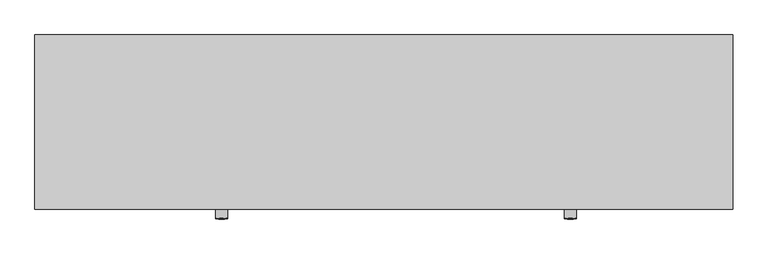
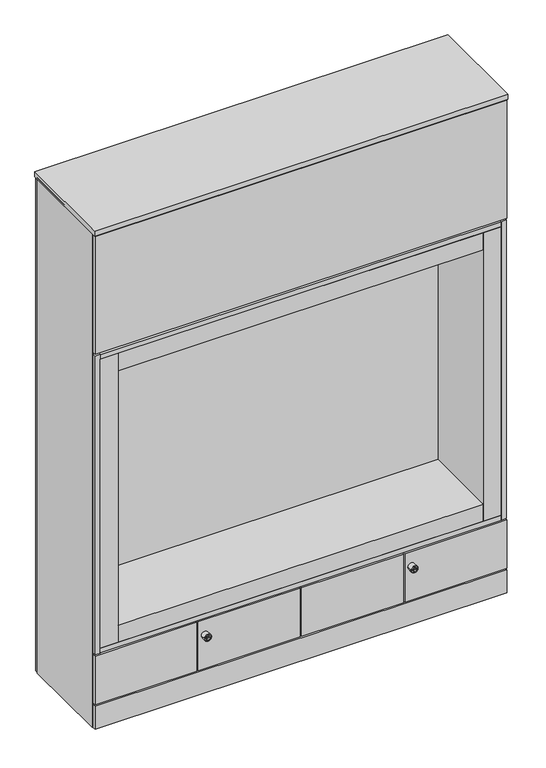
"""IFC4 building model written with IfcOpenShell, lengths in millimetres: furniture geometry, Furniture_Storage_Spacestor_SignatureStoragewall : Snugglestor Double."""

from ifc_helpers import new_model, si_unit, point, frame, origin, origin_with_axes, place, context, project, spatial, polyline, circle_curve, ellipse_curve, trimmed, outline, extrude, source, transform, mapped, element, save
from ifc_brep_helpers import plane_surface, cylinder_surface, revolved_surface, advanced_brep


def furniture_052f12db(model_context):
    return source(origin(), model_context, "Body", "SolidModel", [
        extrude(outline(polyline([(1996.5, 459.0), (3.5, 459.0), (3.5, 477.0), (1996.5, 477.0), (1996.5, 459.0)])), origin_with_axes(), (0.0, 0.0, 1.0), 2518.0),
        extrude(outline(polyline([(1996.5, -18.0), (3.5, -18.0), (3.5, 0.0), (1996.5, 0.0), (1996.5, -18.0)])), origin_with_axes(), (0.0, 0.0, 1.0), 118.0),
        extrude(outline(polyline([(2000.0, -20.5), (0.0, -20.5), (0.0, 479.5), (2000.0, 479.5), (2000.0, -20.5)])), frame((0.0, 0.0, 2525.0), z_axis=(0.0, 0.0, 1.0), x_axis=(1.0, 0.0, 0.0)), (0.0, 0.0, 1.0), 25.5),
        extrude(outline(polyline([(2000.0, 0.0), (1989.0, 0.0), (1989.0, 459.0), (2000.0, 459.0), (2000.0, 0.0)])), origin_with_axes(), (0.0, 0.0, 1.0), 2532.5),
        extrude(outline(polyline([(11.0, 0.0), (0.0, 0.0), (0.0, 459.0), (11.0, 459.0), (11.0, 0.0)])), origin_with_axes(), (0.0, 0.0, 1.0), 2532.5),
        extrude(outline(polyline([(1996.5, -18.0), (3.5, -18.0), (3.5, 0.0), (1996.5, 0.0), (1996.5, -18.0)])), frame((0.0, 0.0, 1917.0), z_axis=(0.0, 0.0, 1.0), x_axis=(1.0, 0.0, 0.0)), (0.0, 0.0, 1.0), 601.0),
        extrude(outline(polyline([(1989.0, 0.0), (11.0, 0.0), (11.0, 459.0), (1989.0, 459.0), (1989.0, 0.0)])), frame((0.0, 0.0, 1902.5), z_axis=(0.0, 0.0, 1.0), x_axis=(1.0, 0.0, 0.0)), (0.0, 0.0, 1.0), 22.0),
        extrude(outline(polyline([(1970.5, 398.0), (1970.5, 361.0), (29.5, 361.0), (29.5, 398.0), (1970.5, 398.0)])), frame((0.0, 0.0, 406.5), z_axis=(0.0, 0.0, 1.0), x_axis=(1.0, 0.0, 0.0)), (0.0, 0.0, 1.0), 1476.0),
        extrude(outline(polyline([(1970.5, -18.0), (1883.5, -18.0), (1883.5, 361.0), (1970.5, 361.0), (1970.5, -18.0)])), frame((0.0, 0.0, 406.5), z_axis=(0.0, 0.0, 1.0), x_axis=(1.0, 0.0, 0.0)), (0.0, 0.0, 1.0), 1476.0),
        extrude(outline(polyline([(116.5, -18.0), (29.5, -18.0), (29.5, 361.0), (116.5, 361.0), (116.5, -18.0)])), frame((0.0, 0.0, 406.5), z_axis=(0.0, 0.0, 1.0), x_axis=(1.0, 0.0, 0.0)), (0.0, 0.0, 1.0), 1476.0),
        extrude(outline(polyline([(1883.5, -18.0), (116.5, -18.0), (116.5, 361.0), (1883.5, 361.0), (1883.5, -18.0)])), frame((0.0, 0.0, 406.5), z_axis=(0.0, 0.0, 1.0), x_axis=(1.0, 0.0, 0.0)), (0.0, 0.0, 1.0), 87.0),
        extrude(outline(polyline([(1883.5, -18.0), (116.5, -18.0), (116.5, 361.0), (1883.5, 361.0), (1883.5, -18.0)])), frame((0.0, 0.0, 1795.5), z_axis=(0.0, 0.0, 1.0), x_axis=(1.0, 0.0, 0.0)), (0.0, 0.0, 1.0), 87.0),
        extrude(outline(polyline([(1003.5, -18.0), (1003.5, 0.0), (1496.5, 0.0), (1496.5, -18.0), (1003.5, -18.0)])), frame((0.0, 0.0, 125.0), z_axis=(0.0, 0.0, 1.0), x_axis=(1.0, 0.0, 0.0)), (0.0, 0.0, 1.0), 249.0),
        extrude(outline(polyline([(1996.5, -18.0), (1503.5, -18.0), (1503.5, 0.0), (1996.5, 0.0), (1996.5, -18.0)])), frame((0.0, 0.0, 125.0), z_axis=(0.0, 0.0, 1.0), x_axis=(1.0, 0.0, 0.0)), (0.0, 0.0, 1.0), 249.0),
        advanced_brep(
        [(1552.0, -45.3116344, 299.0), (1518.0, -45.3116344, 299.0), (1518.0, -18.0, 299.0), (1552.0, -18.0, 299.0), (1535.0, -18.0, 299.0), (1543.9747319, -46.3150077, 299.0), (1526.0252681, -46.3150077, 299.0), (1519.0033734, -46.3150077, 299.0), (1550.9966266, -46.3150077, 299.0), (1543.9747319, -47.4703043, 299.0), (1526.0252681, -47.4703043, 299.0), (1539.8245152, -47.4703043, 299.0), (1539.8245152, -47.4703043, 297.6366562), (1530.1754848, -47.4703043, 297.6366562), (1530.1754848, -47.4703043, 299.0), (1530.1754848, -47.4703043, 300.3633438), (1539.8245152, -47.4703043, 300.3633438), (1530.1754848, -27.8604291, 297.6366562), (1539.8245152, -27.8604291, 297.6366562), (1539.8245152, -27.8604291, 300.3633438), (1530.1754848, -27.8604291, 300.3633438)],
        [
            (0, 1, circle_curve(frame((1535.0, -45.3116344, 299.0), z_axis=(0.0, 1.0, 0.0), x_axis=(-1.0, 0.0, 0.0)), 17.0)),
            (1, 2),
            (2, 3, circle_curve(frame((1535.0, -18.0, 299.0), z_axis=(0.0, -1.0, 0.0), x_axis=(-1.0, 0.0, 0.0)), 17.0)),
            (3, 0),
            (1, 0, circle_curve(frame((1535.0, -45.3116344, 299.0), z_axis=(0.0, 1.0, 0.0), x_axis=(-1.0, 0.0, 0.0)), 17.0)),
            (3, 2, circle_curve(frame((1535.0, -18.0, 299.0), z_axis=(0.0, -1.0, 0.0), x_axis=(-1.0, 0.0, 0.0)), 17.0)),
            (2, 4),
            (4, 3),
            (5, 6, circle_curve(frame((1535.0, -46.3150077, 299.0), z_axis=(0.0, 1.0, 0.0), x_axis=(-1.0, 0.0, 0.0)), 8.9747319)),
            (6, 7),
            (7, 8, circle_curve(frame((1535.0, -46.3150077, 299.0), z_axis=(0.0, -1.0, 0.0), x_axis=(-1.0, 0.0, 0.0)), 15.9966266)),
            (8, 5),
            (6, 5, circle_curve(frame((1535.0, -46.3150077, 299.0), z_axis=(0.0, 1.0, 0.0), x_axis=(-1.0, 0.0, 0.0)), 8.9747319)),
            (8, 7, circle_curve(frame((1535.0, -46.3150077, 299.0), z_axis=(0.0, -1.0, 0.0), x_axis=(-1.0, 0.0, 0.0)), 15.9966266)),
            (0, 8, circle_curve(frame((1550.9966266, -45.3116344, 299.0), z_axis=(0.0, 0.0, -1.0), x_axis=(1.0, 0.0, 0.0)), 1.0033734)),
            (7, 1, circle_curve(frame((1519.0033734, -45.3116344, 299.0), z_axis=(0.0, 0.0, -1.0), x_axis=(-1.0, 0.0, 0.0)), 1.0033734)),
            (5, 9),
            (9, 10, circle_curve(frame((1535.0, -47.4703043, 299.0), z_axis=(0.0, 1.0, 0.0), x_axis=(-1.0, 0.0, 0.0)), 8.9747319)),
            (10, 6),
            (10, 9, circle_curve(frame((1535.0, -47.4703043, 299.0), z_axis=(0.0, 1.0, 0.0), x_axis=(-1.0, 0.0, 0.0)), 8.9747319)),
            (9, 11),
            (11, 12),
            (12, 13),
            (13, 14),
            (14, 10),
            (14, 15),
            (15, 16),
            (16, 11),
            (17, 18),
            (18, 19),
            (19, 20),
            (20, 17),
            (17, 13),
            (12, 18),
            (16, 19),
            (15, 20),
        ],
        [
            cylinder_surface(frame((1535.0, -2627.0581012, 299.0), z_axis=(0.0, -1.0, 0.0), x_axis=(-1.0, 0.0, 0.0)), 17.0),
            plane_surface(frame((1535.0, -18.0, 299.0), z_axis=(0.0, 1.0, 0.0), x_axis=(-1.0, 0.0, 0.0))),
            plane_surface(frame((1535.0, -46.3150077, 299.0), z_axis=(0.0, -1.0, 0.0), x_axis=(-1.0, 0.0, 0.0))),
            revolved_surface(trimmed(ellipse_curve(frame((1519.0033734, -45.3116344, 299.0), z_axis=(0.0, 0.0, 1.0), x_axis=(-1.0, 0.0, 0.0)), 1.0033734, 1.0033734), [point((1518.0, -45.3116344, 299.0))], [point((1519.0033734, -46.3150077, 299.0))], True, "CARTESIAN"), (1535.0, -2627.0581012, 299.0), (0.0, -1.0, 0.0)),
            cylinder_surface(frame((1535.0, -2627.0581012, 299.0), z_axis=(0.0, -1.0, 0.0), x_axis=(-1.0, 0.0, 0.0)), 8.9747319),
            plane_surface(frame((1535.0, -47.4703043, 299.0), z_axis=(0.0, -1.0, 0.0), x_axis=(-1.0, 0.0, 0.0))),
            plane_surface(frame((1539.4565249, -27.8604291, 297.6366562), z_axis=(0.0, -1.0, 0.0), x_axis=(-1.0, 0.0, 0.0))),
            plane_surface(frame((1530.1754848, -49.2046383, 297.6366562), z_axis=(0.0, 0.0, 1.0), x_axis=(0.0, 1.0, 0.0))),
            plane_surface(frame((1539.8245152, -49.2046383, 297.6366562), z_axis=(-1.0, 0.0, 0.0), x_axis=(0.0, 1.0, 0.0))),
            plane_surface(frame((1539.8245152, -49.2046383, 300.3633438), z_axis=(0.0, 0.0, -1.0), x_axis=(0.0, 1.0, 0.0))),
            plane_surface(frame((1530.1754848, -49.2046383, 300.3633438), z_axis=(1.0, 0.0, 0.0), x_axis=(0.0, 1.0, 0.0))),
        ],
        [
            (0, [[1, 2, 3, 4]]),
            (0, [[-2, 5, -4, 6]]),
            (1, [[-3, 7, 8]]),
            (1, [[-6, -8, -7]]),
            (2, [[9, 10, 11, 12]]),
            (2, [[-10, 13, -12, 14]]),
            (3, [[-1, 15, -11, 16]]),
            (3, [[-5, -16, -14, -15]]),
            (4, [[-9, 17, 18, 19]]),
            (4, [[-13, -19, 20, -17]]),
            (5, [[-18, 21, 22, 23, 24, 25]]),
            (5, [[-20, -25, 26, 27, 28, -21]]),
            (6, [[29, 30, 31, 32]]),
            (7, [[-29, 33, -23, 34]]),
            (8, [[-30, -34, -22, -28, 35]]),
            (9, [[-31, -35, -27, 36]]),
            (10, [[-32, -36, -26, -24, -33]]),
        ],
    ),
        extrude(outline(polyline([(1989.0, 0.0), (11.0, 0.0), (11.0, 459.0), (1989.0, 459.0), (1989.0, 0.0)])), frame((0.0, 0.0, 110.5), z_axis=(0.0, 0.0, 1.0), x_axis=(1.0, 0.0, 0.0)), (0.0, 0.0, 1.0), 22.0),
        extrude(outline(polyline([(1989.0, 0.0), (11.0, 0.0), (11.0, 459.0), (1989.0, 459.0), (1989.0, 0.0)])), frame((0.0, 0.0, 2510.0), z_axis=(0.0, 0.0, 1.0), x_axis=(1.0, 0.0, 0.0)), (0.0, 0.0, 1.0), 22.0),
        extrude(outline(polyline([(1989.0, 0.0), (11.0, 0.0), (11.0, 459.0), (1989.0, 459.0), (1989.0, 0.0)])), frame((0.0, 0.0, 366.5), z_axis=(0.0, 0.0, 1.0), x_axis=(1.0, 0.0, 0.0)), (0.0, 0.0, 1.0), 22.0),
        extrude(outline(polyline([(1970.5, -18.0), (29.5, -18.0), (29.5, 416.0), (1970.5, 416.0), (1970.5, -18.0)])), frame((0.0, 0.0, 381.5), z_axis=(0.0, 0.0, 1.0), x_axis=(1.0, 0.0, 0.0)), (0.0, 0.0, 1.0), 25.0),
        extrude(outline(polyline([(29.5, -18.0), (4.5, -18.0), (4.5, 416.0), (29.5, 416.0), (29.5, -18.0)])), frame((0.0, 0.0, 381.0), z_axis=(0.0, 0.0, 1.0), x_axis=(1.0, 0.0, 0.0)), (0.0, 0.0, 1.0), 1527.0),
        extrude(outline(polyline([(1995.5, -18.0), (1970.5, -18.0), (1970.5, 416.0), (1995.5, 416.0), (1995.5, -18.0)])), frame((0.0, 0.0, 381.0), z_axis=(0.0, 0.0, 1.0), x_axis=(1.0, 0.0, 0.0)), (0.0, 0.0, 1.0), 1527.0),
        extrude(outline(polyline([(1995.5, 416.0), (4.5, 416.0), (4.5, 434.0), (1995.5, 434.0), (1995.5, 416.0)])), frame((0.0, 0.0, 381.0), z_axis=(0.0, 0.0, 1.0), x_axis=(1.0, 0.0, 0.0)), (0.0, 0.0, 1.0), 1527.0),
        extrude(outline(polyline([(1970.5, -18.0), (29.5, -18.0), (29.5, 416.0), (1970.5, 416.0), (1970.5, -18.0)])), frame((0.0, 0.0, 1882.5), z_axis=(0.0, 0.0, 1.0), x_axis=(1.0, 0.0, 0.0)), (0.0, 0.0, 1.0), 25.0),
        extrude(outline(polyline([(3.5, -18.0), (3.5, 0.0), (496.5, 0.0), (496.5, -18.0), (3.5, -18.0)])), frame((0.0, 0.0, 125.0), z_axis=(0.0, 0.0, 1.0), x_axis=(1.0, 0.0, 0.0)), (0.0, 0.0, 1.0), 249.0),
        extrude(outline(polyline([(996.5, -18.0), (503.5, -18.0), (503.5, 0.0), (996.5, 0.0), (996.5, -18.0)])), frame((0.0, 0.0, 125.0), z_axis=(0.0, 0.0, 1.0), x_axis=(1.0, 0.0, 0.0)), (0.0, 0.0, 1.0), 249.0),
        advanced_brep(
        [(552.0, -45.3116344, 299.0), (518.0, -45.3116344, 299.0), (518.0, -18.0, 299.0), (552.0, -18.0, 299.0), (535.0, -18.0, 299.0), (543.9747319, -46.3150077, 299.0), (526.0252681, -46.3150077, 299.0), (519.0033734, -46.3150077, 299.0), (550.9966266, -46.3150077, 299.0), (543.9747319, -47.4703043, 299.0), (526.0252681, -47.4703043, 299.0), (539.8245152, -47.4703043, 299.0), (539.8245152, -47.4703043, 297.6366562), (530.1754848, -47.4703043, 297.6366562), (530.1754848, -47.4703043, 299.0), (530.1754848, -47.4703043, 300.3633438), (539.8245152, -47.4703043, 300.3633438), (530.1754848, -27.8604291, 297.6366562), (539.8245152, -27.8604291, 297.6366562), (539.8245152, -27.8604291, 300.3633438), (530.1754848, -27.8604291, 300.3633438)],
        [
            (0, 1, circle_curve(frame((535.0, -45.3116344, 299.0), z_axis=(0.0, 1.0, 0.0), x_axis=(-1.0, 0.0, 0.0)), 17.0)),
            (1, 2),
            (2, 3, circle_curve(frame((535.0, -18.0, 299.0), z_axis=(0.0, -1.0, 0.0), x_axis=(-1.0, 0.0, 0.0)), 17.0)),
            (3, 0),
            (1, 0, circle_curve(frame((535.0, -45.3116344, 299.0), z_axis=(0.0, 1.0, 0.0), x_axis=(-1.0, 0.0, 0.0)), 17.0)),
            (3, 2, circle_curve(frame((535.0, -18.0, 299.0), z_axis=(0.0, -1.0, 0.0), x_axis=(-1.0, 0.0, 0.0)), 17.0)),
            (2, 4),
            (4, 3),
            (5, 6, circle_curve(frame((535.0, -46.3150077, 299.0), z_axis=(0.0, 1.0, 0.0), x_axis=(-1.0, 0.0, 0.0)), 8.9747319)),
            (6, 7),
            (7, 8, circle_curve(frame((535.0, -46.3150077, 299.0), z_axis=(0.0, -1.0, 0.0), x_axis=(-1.0, 0.0, 0.0)), 15.9966266)),
            (8, 5),
            (6, 5, circle_curve(frame((535.0, -46.3150077, 299.0), z_axis=(0.0, 1.0, 0.0), x_axis=(-1.0, 0.0, 0.0)), 8.9747319)),
            (8, 7, circle_curve(frame((535.0, -46.3150077, 299.0), z_axis=(0.0, -1.0, 0.0), x_axis=(-1.0, 0.0, 0.0)), 15.9966266)),
            (0, 8, circle_curve(frame((550.9966266, -45.3116344, 299.0), z_axis=(0.0, 0.0, -1.0), x_axis=(1.0, 0.0, 0.0)), 1.0033734)),
            (7, 1, circle_curve(frame((519.0033734, -45.3116344, 299.0), z_axis=(0.0, 0.0, -1.0), x_axis=(-1.0, 0.0, 0.0)), 1.0033734)),
            (5, 9),
            (9, 10, circle_curve(frame((535.0, -47.4703043, 299.0), z_axis=(0.0, 1.0, 0.0), x_axis=(-1.0, 0.0, 0.0)), 8.9747319)),
            (10, 6),
            (10, 9, circle_curve(frame((535.0, -47.4703043, 299.0), z_axis=(0.0, 1.0, 0.0), x_axis=(-1.0, 0.0, 0.0)), 8.9747319)),
            (9, 11),
            (11, 12),
            (12, 13),
            (13, 14),
            (14, 10),
            (14, 15),
            (15, 16),
            (16, 11),
            (17, 18),
            (18, 19),
            (19, 20),
            (20, 17),
            (17, 13),
            (12, 18),
            (16, 19),
            (15, 20),
        ],
        [
            cylinder_surface(frame((535.0, -2627.0581012, 299.0), z_axis=(0.0, -1.0, 0.0), x_axis=(-1.0, 0.0, 0.0)), 17.0),
            plane_surface(frame((535.0, -18.0, 299.0), z_axis=(0.0, 1.0, 0.0), x_axis=(-1.0, 0.0, 0.0))),
            plane_surface(frame((535.0, -46.3150077, 299.0), z_axis=(0.0, -1.0, 0.0), x_axis=(-1.0, 0.0, 0.0))),
            revolved_surface(trimmed(ellipse_curve(frame((519.0033734, -45.3116344, 299.0), z_axis=(0.0, 0.0, 1.0), x_axis=(-1.0, 0.0, 0.0)), 1.0033734, 1.0033734), [point((518.0, -45.3116344, 299.0))], [point((519.0033734, -46.3150077, 299.0))], True, "CARTESIAN"), (535.0, -2627.0581012, 299.0), (0.0, -1.0, 0.0)),
            cylinder_surface(frame((535.0, -2627.0581012, 299.0), z_axis=(0.0, -1.0, 0.0), x_axis=(-1.0, 0.0, 0.0)), 8.9747319),
            plane_surface(frame((535.0, -47.4703043, 299.0), z_axis=(0.0, -1.0, 0.0), x_axis=(-1.0, 0.0, 0.0))),
            plane_surface(frame((539.4565249, -27.8604291, 297.6366562), z_axis=(0.0, -1.0, 0.0), x_axis=(-1.0, 0.0, 0.0))),
            plane_surface(frame((530.1754848, -49.2046383, 297.6366562), z_axis=(0.0, 0.0, 1.0), x_axis=(0.0, 1.0, 0.0))),
            plane_surface(frame((539.8245152, -49.2046383, 297.6366562), z_axis=(-1.0, 0.0, 0.0), x_axis=(0.0, 1.0, 0.0))),
            plane_surface(frame((539.8245152, -49.2046383, 300.3633438), z_axis=(0.0, 0.0, -1.0), x_axis=(0.0, 1.0, 0.0))),
            plane_surface(frame((530.1754848, -49.2046383, 300.3633438), z_axis=(1.0, 0.0, 0.0), x_axis=(0.0, 1.0, 0.0))),
        ],
        [
            (0, [[1, 2, 3, 4]]),
            (0, [[-2, 5, -4, 6]]),
            (1, [[-3, 7, 8]]),
            (1, [[-6, -8, -7]]),
            (2, [[9, 10, 11, 12]]),
            (2, [[-10, 13, -12, 14]]),
            (3, [[-1, 15, -11, 16]]),
            (3, [[-5, -16, -14, -15]]),
            (4, [[-9, 17, 18, 19]]),
            (4, [[-13, -19, 20, -17]]),
            (5, [[-18, 21, 22, 23, 24, 25]]),
            (5, [[-20, -25, 26, 27, 28, -21]]),
            (6, [[29, 30, 31, 32]]),
            (7, [[-29, 33, -23, 34]]),
            (8, [[-30, -34, -22, -28, 35]]),
            (9, [[-31, -35, -27, 36]]),
            (10, [[-32, -36, -26, -24, -33]]),
        ],
    ),
    ])


if __name__ == "__main__":
    model = new_model("IFC4")
    model_context = context("Model", 3, world=origin())
    ifc_project = project(units=[si_unit("LENGTHUNIT", "METRE", prefix="MILLI")], contexts=[model_context])
    site = spatial("IfcSite", under=ifc_project)
    building = spatial("IfcBuilding", under=site)
    placement = place(None, origin())
    furniture_shape = furniture_052f12db(model_context)
    element("IfcFurniture", 1, ObjectType="Furniture_Storage_Spacestor_SignatureStoragewall : Snugglestor Double", at=placement, inside=building, context=model_context, shape_type="MappedRepresentation", body=[
        mapped(furniture_shape, transform((0.0, 0.0, 0.0), x_axis=(1.0, 0.0, 0.0), y_axis=(0.0, 1.0, 0.0), z_axis=(0.0, 0.0, 1.0))),
    ])
    save(model, "model.ifc")
